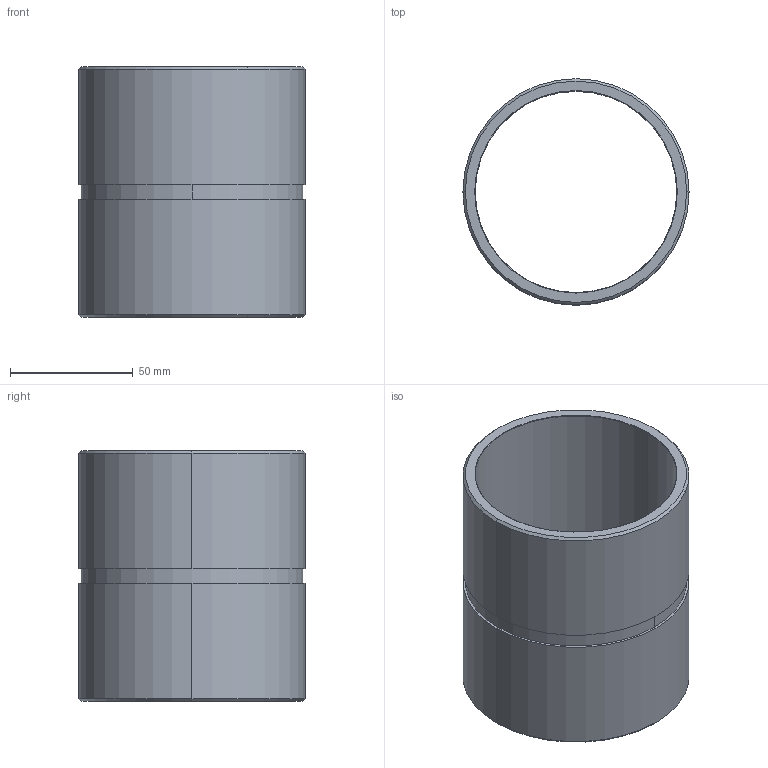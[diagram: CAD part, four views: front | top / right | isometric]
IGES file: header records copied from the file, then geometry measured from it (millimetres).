
Start section: START RECORD GO HERE.
Global section: file name: C104-02-090-100.igs; native system: DASSAULT SYSTEMES CATIA V5 R20 - www.3ds.com; preprocessor: CATIA Version 5 Release 20 ; author: Utente; organization: NB04-ASUS; date: 20200422.153517; units: millimetre
Bounding box: 92 x 92 x 102 mm (x, y, z)
Surface area: 58622.8 mm2 (no closed solid volume)
Topology: 0 solids, 0 shells, 24 faces, 104 edges, 104 vertices
Faces by surface type: revolution 20, plane 4
